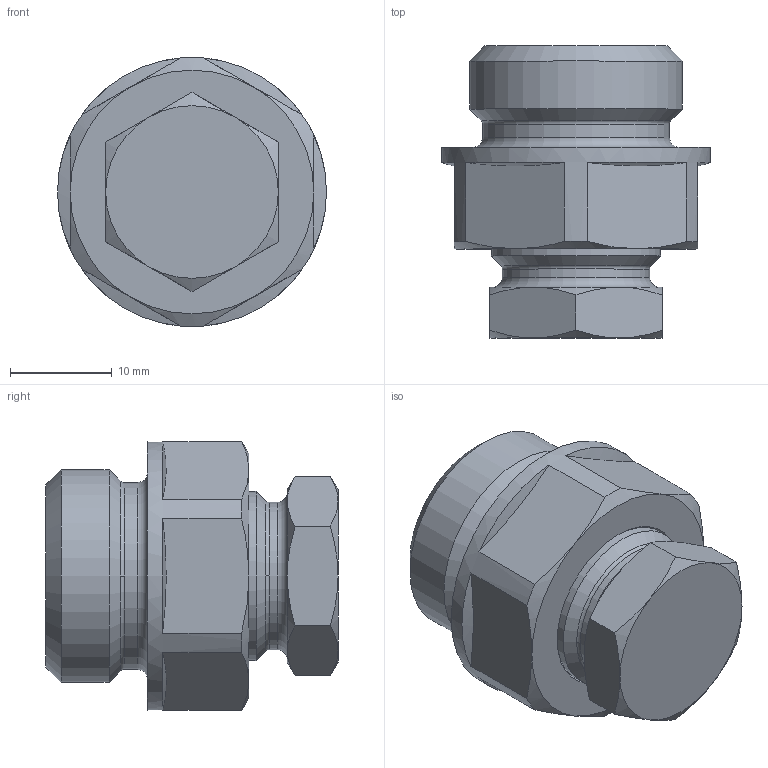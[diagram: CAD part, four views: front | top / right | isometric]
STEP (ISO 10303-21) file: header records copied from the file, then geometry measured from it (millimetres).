
FILE_DESCRIPTION(('STEP AP203'), '1');
FILE_NAME('覆.302615.001.000 捘 - VTr.756.N.0004', '2024-07-15T13:55:00', ('Boss'), (''), 'C3D Converter', 'C3D Toolkit', '');
FILE_SCHEMA(('CONFIG_CONTROL_DESIGN'));
Length unit declared in the file: millimetre
Products named in the file (1): ВР.302615.001.000 СБ
Bounding box: 26.5 x 28.78 x 26.5 mm (x, y, z)
Volume: 10109.8 mm3; surface area: 3123.9 mm2
Topology: 1 solids, 1 shells, 56 faces, 127 edges, 76 vertices
Faces by surface type: cone 28, plane 17, torus 6, cylinder 5
Full cylindrical faces by diameter (mm): 14.5 x1, 16.662 x1, 18.4 x1, 20.955 x1, 26.5 x1
Entity records: 2569 total; most frequent: CARTESIAN_POINT 1403, DIRECTION 236, ORIENTED_EDGE 224, EDGE_CURVE 112, AXIS2_PLACEMENT_3D 109, VERTEX_POINT 76, EDGE_LOOP 68, FACE_BOUND 55
